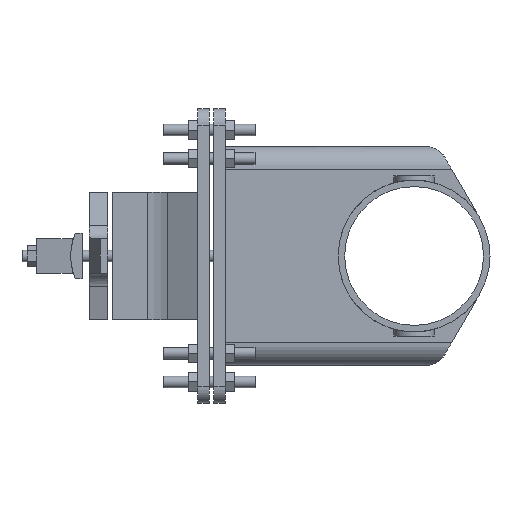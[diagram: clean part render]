
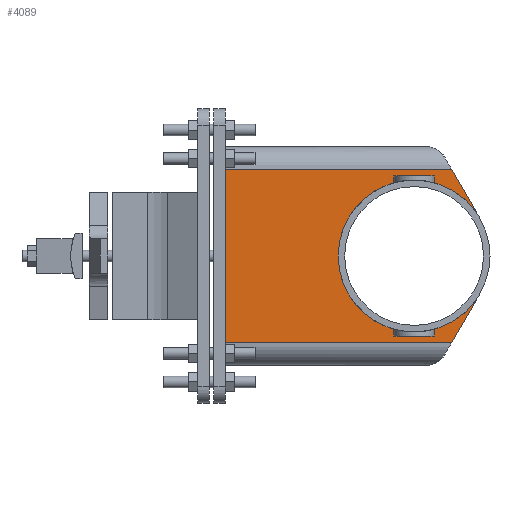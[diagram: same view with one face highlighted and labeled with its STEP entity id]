
A CAD part, left-side view. The second image highlights one B-rep face of the part: STEP entity #4089.
In plain terms, the highlighted planar face has unit normal (-1, 0, 0).
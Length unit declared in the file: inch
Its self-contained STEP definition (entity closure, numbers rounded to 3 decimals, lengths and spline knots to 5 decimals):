
#184=CIRCLE('',#4352,3.315);
#185=CIRCLE('',#4353,3.315);
#186=CIRCLE('',#4354,3.315);
#333=FACE_OUTER_BOUND('',#560,.T.);
#560=EDGE_LOOP('',(#2783,#2784,#2785,#2786,#2787,#2788,#2789,#2790,#2791,
#2792,#2793,#2794,#2795,#2796));
#891=LINE('',#6035,#1313);
#899=LINE('',#6065,#1321);
#909=LINE('',#6092,#1331);
#911=LINE('',#6096,#1333);
#912=LINE('',#6100,#1334);
#913=LINE('',#6102,#1335);
#914=LINE('',#6104,#1336);
#915=LINE('',#6108,#1337);
#916=LINE('',#6110,#1338);
#917=LINE('',#6112,#1339);
#918=LINE('',#6114,#1340);
#1313=VECTOR('',#4862,0.3937);
#1321=VECTOR('',#4892,0.3937);
#1331=VECTOR('',#4914,0.3937);
#1333=VECTOR('',#4918,0.3937);
#1334=VECTOR('',#4921,0.3937);
#1335=VECTOR('',#4922,0.3937);
#1336=VECTOR('',#4923,0.3937);
#1337=VECTOR('',#4926,0.3937);
#1338=VECTOR('',#4927,0.3937);
#1339=VECTOR('',#4928,0.3937);
#1340=VECTOR('',#4931,0.3937);
#1708=VERTEX_POINT('',#6033);
#1709=VERTEX_POINT('',#6034);
#1719=VERTEX_POINT('',#6062);
#1720=VERTEX_POINT('',#6064);
#1731=VERTEX_POINT('',#6091);
#1732=VERTEX_POINT('',#6095);
#1733=VERTEX_POINT('',#6097);
#1734=VERTEX_POINT('',#6099);
#1735=VERTEX_POINT('',#6101);
#1736=VERTEX_POINT('',#6103);
#1737=VERTEX_POINT('',#6105);
#1738=VERTEX_POINT('',#6107);
#1739=VERTEX_POINT('',#6109);
#1740=VERTEX_POINT('',#6111);
#2116=EDGE_CURVE('',#1708,#1709,#891,.T.);
#2131=EDGE_CURVE('',#1719,#1720,#899,.T.);
#2145=EDGE_CURVE('',#1731,#1720,#909,.T.);
#2147=EDGE_CURVE('',#1708,#1732,#911,.T.);
#2148=EDGE_CURVE('',#1733,#1732,#184,.T.);
#2149=EDGE_CURVE('',#1733,#1734,#912,.T.);
#2150=EDGE_CURVE('',#1734,#1735,#913,.T.);
#2151=EDGE_CURVE('',#1735,#1736,#914,.T.);
#2152=EDGE_CURVE('',#1737,#1736,#185,.T.);
#2153=EDGE_CURVE('',#1737,#1738,#915,.T.);
#2154=EDGE_CURVE('',#1738,#1739,#916,.T.);
#2155=EDGE_CURVE('',#1739,#1740,#917,.T.);
#2156=EDGE_CURVE('',#1731,#1740,#186,.T.);
#2157=EDGE_CURVE('',#1719,#1709,#918,.T.);
#2783=ORIENTED_EDGE('',*,*,#2116,.F.);
#2784=ORIENTED_EDGE('',*,*,#2147,.T.);
#2785=ORIENTED_EDGE('',*,*,#2148,.F.);
#2786=ORIENTED_EDGE('',*,*,#2149,.T.);
#2787=ORIENTED_EDGE('',*,*,#2150,.T.);
#2788=ORIENTED_EDGE('',*,*,#2151,.T.);
#2789=ORIENTED_EDGE('',*,*,#2152,.F.);
#2790=ORIENTED_EDGE('',*,*,#2153,.T.);
#2791=ORIENTED_EDGE('',*,*,#2154,.T.);
#2792=ORIENTED_EDGE('',*,*,#2155,.T.);
#2793=ORIENTED_EDGE('',*,*,#2156,.F.);
#2794=ORIENTED_EDGE('',*,*,#2145,.T.);
#2795=ORIENTED_EDGE('',*,*,#2131,.F.);
#2796=ORIENTED_EDGE('',*,*,#2157,.T.);
#3692=PLANE('',#4351);
#4089=ADVANCED_FACE('',(#333),#3692,.F.);
#4351=AXIS2_PLACEMENT_3D('',#6094,#4916,#4917);
#4352=AXIS2_PLACEMENT_3D('',#6098,#4919,#4920);
#4353=AXIS2_PLACEMENT_3D('',#6106,#4924,#4925);
#4354=AXIS2_PLACEMENT_3D('',#6113,#4929,#4930);
#4862=DIRECTION('',(0.,1.,0.));
#4892=DIRECTION('',(0.,-1.,0.));
#4914=DIRECTION('',(0.,0.5,0.866));
#4916=DIRECTION('center_axis',(1.,0.,0.));
#4917=DIRECTION('ref_axis',(0.,0.,-1.));
#4918=DIRECTION('',(0.,-0.5,0.866));
#4919=DIRECTION('center_axis',(-1.,0.,0.));
#4920=DIRECTION('ref_axis',(0.,1.,0.));
#4921=DIRECTION('',(0.,0.,-1.));
#4922=DIRECTION('',(0.,1.,0.));
#4923=DIRECTION('',(0.,0.,1.));
#4924=DIRECTION('center_axis',(-1.,0.,0.));
#4925=DIRECTION('ref_axis',(0.,1.,0.));
#4926=DIRECTION('',(0.,0.,1.));
#4927=DIRECTION('',(0.,-1.,0.));
#4928=DIRECTION('',(0.,0.,-1.));
#4929=DIRECTION('center_axis',(-1.,0.,0.));
#4930=DIRECTION('ref_axis',(0.,1.,0.));
#4931=DIRECTION('',(0.,0.,-1.));
#6033=CARTESIAN_POINT('',(-2.8,-1.64256,-3.785));
#6034=CARTESIAN_POINT('',(-2.8,8.25,-3.785));
#6035=CARTESIAN_POINT('',(-2.8,1.09025,-3.785));
#6062=CARTESIAN_POINT('',(-2.8,8.25,3.785));
#6064=CARTESIAN_POINT('',(-2.8,-1.64256,3.785));
#6065=CARTESIAN_POINT('',(-2.8,5.74786,3.785));
#6091=CARTESIAN_POINT('',(-2.8,-2.87087,1.6575));
#6092=CARTESIAN_POINT('',(-2.8,-2.87087,1.6575));
#6094=CARTESIAN_POINT('Origin',(-2.8,3.24572,0.));
#6095=CARTESIAN_POINT('',(-2.8,-2.87087,-1.6575));
#6096=CARTESIAN_POINT('',(-2.8,-1.06521,-4.785));
#6097=CARTESIAN_POINT('',(-2.8,-0.73362,-3.2328));
#6098=CARTESIAN_POINT('Origin',(-2.8,0.,0.));
#6099=CARTESIAN_POINT('',(-2.8,-0.73362,-3.5));
#6100=CARTESIAN_POINT('',(-2.8,-0.73362,0.));
#6101=CARTESIAN_POINT('',(-2.8,0.73362,-3.5));
#6102=CARTESIAN_POINT('',(-2.8,1.62286,-3.5));
#6103=CARTESIAN_POINT('',(-2.8,0.73362,-3.2328));
#6104=CARTESIAN_POINT('',(-2.8,0.73362,0.));
#6105=CARTESIAN_POINT('',(-2.8,0.73362,3.2328));
#6106=CARTESIAN_POINT('Origin',(-2.8,0.,0.));
#6107=CARTESIAN_POINT('',(-2.8,0.73362,3.5));
#6108=CARTESIAN_POINT('',(-2.8,0.73362,0.));
#6109=CARTESIAN_POINT('',(-2.8,-0.73362,3.5));
#6110=CARTESIAN_POINT('',(-2.8,1.62286,3.5));
#6111=CARTESIAN_POINT('',(-2.8,-0.73362,3.2328));
#6112=CARTESIAN_POINT('',(-2.8,-0.73362,0.));
#6113=CARTESIAN_POINT('Origin',(-2.8,0.,0.));
#6114=CARTESIAN_POINT('',(-2.8,8.25,4.785));
